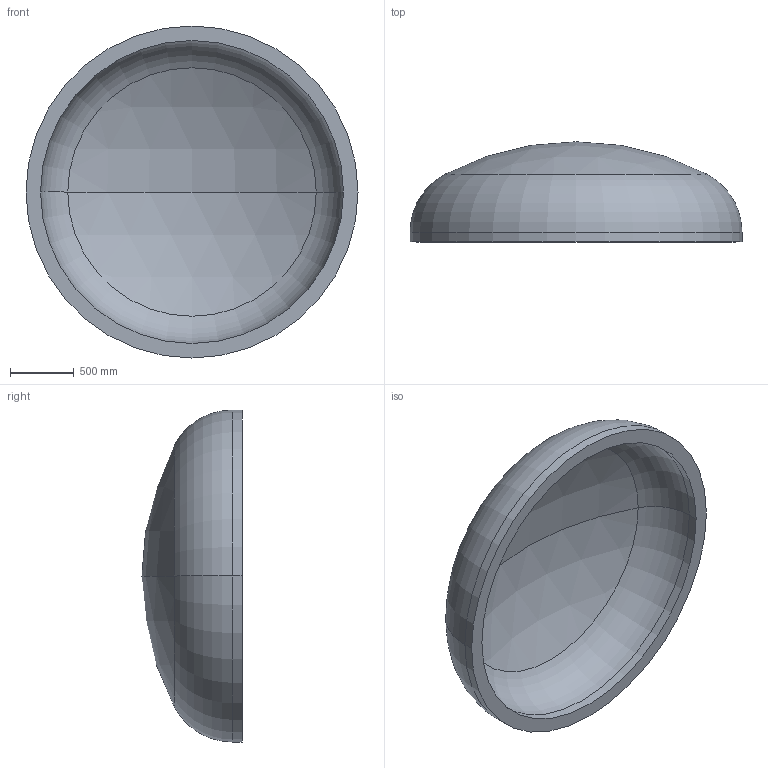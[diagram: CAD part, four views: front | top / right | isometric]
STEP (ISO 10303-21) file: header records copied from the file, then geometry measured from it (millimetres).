
FILE_DESCRIPTION (( 'STEP AP203' ), '1' );
FILE_NAME ('DIN 28013 Korbbogenform_-_Boden DIN 28013 - 2600 x 75 - I - s=114.step', '2016-07-01T16:35:09', ( '' ), ( '' ), 'SwSTEP 2.0', 'SolidWorks 2013', '' );
FILE_SCHEMA (( 'CONFIG_CONTROL_DESIGN' ));
Length unit declared in the file: millimetre
Products named in the file (1): DIN 28013 Korbbogenform_-_Boden DIN 28013 - 2600 x 75 - I - s=114
Bounding box: 2600 x 784.21 x 2600 mm (x, y, z)
Volume: 858737101.5 mm3; surface area: 15983117.3 mm2
Topology: 1 solids, 1 shells, 13 faces, 24 edges, 14 vertices
Faces by surface type: torus 4, cylinder 4, sphere 4, plane 1
Entity records: 407 total; most frequent: DIRECTION 72, CARTESIAN_POINT 52, ORIENTED_EDGE 48, AXIS2_PLACEMENT_3D 34, EDGE_CURVE 24, CIRCLE 20, VERTEX_POINT 14, EDGE_LOOP 14
